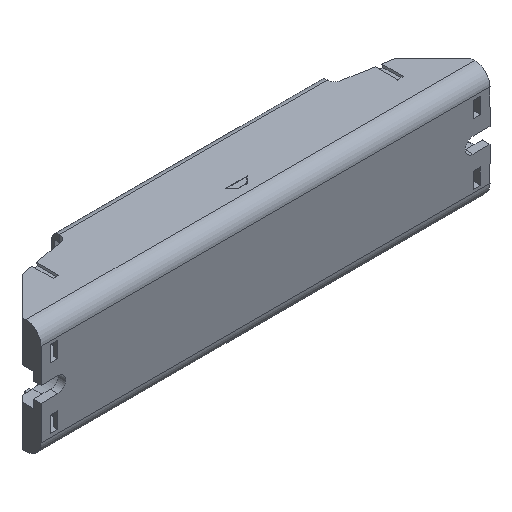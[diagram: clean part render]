
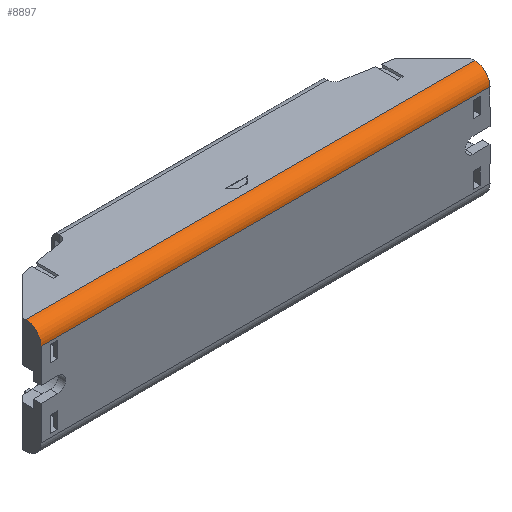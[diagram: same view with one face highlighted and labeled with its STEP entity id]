
A CAD part, isometric view. The second image highlights one B-rep face of the part: STEP entity #8897.
In plain terms, the highlighted cylindrical face has radius 4 mm (diameter 8 mm), a partial arc.
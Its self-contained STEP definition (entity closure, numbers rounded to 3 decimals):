
#96 = CYLINDRICAL_SURFACE ( 'NONE', #1895, 4. ) ;
#677 = ORIENTED_EDGE ( 'NONE', *, *, #11188, .F. ) ;
#1170 = EDGE_CURVE ( 'NONE', #2792, #3642, #11756, .T. ) ;
#1895 = AXIS2_PLACEMENT_3D ( 'NONE', #5152, #15230, #10316 ) ;
#2314 = CARTESIAN_POINT ( 'NONE',  ( -59., -5.006, 11. ) ) ;
#2406 = CIRCLE ( 'NONE', #9977, 4. ) ;
#2484 = CARTESIAN_POINT ( 'NONE',  ( 59., -1.006, 15. ) ) ;
#2588 = DIRECTION ( 'NONE',  ( -1., 0., 0. ) ) ;
#2792 = VERTEX_POINT ( 'NONE', #5476 ) ;
#3534 = ORIENTED_EDGE ( 'NONE', *, *, #1170, .F. ) ;
#3642 = VERTEX_POINT ( 'NONE', #2484 ) ;
#3836 = DIRECTION ( 'NONE',  ( -1., 0., 0. ) ) ;
#4779 = AXIS2_PLACEMENT_3D ( 'NONE', #13895, #11273, #4928 ) ;
#4928 = DIRECTION ( 'NONE',  ( 0., 0., 1. ) ) ;
#4942 = LINE ( 'NONE', #12645, #14056 ) ;
#5123 = VERTEX_POINT ( 'NONE', #8525 ) ;
#5152 = CARTESIAN_POINT ( 'NONE',  ( 59., -1.006, 11. ) ) ;
#5476 = CARTESIAN_POINT ( 'NONE',  ( -59., -1.006, 15. ) ) ;
#6105 = VERTEX_POINT ( 'NONE', #2314 ) ;
#7948 = DIRECTION ( 'NONE',  ( 1., 0., 0. ) ) ;
#8220 = EDGE_CURVE ( 'NONE', #6105, #2792, #2406, .T. ) ;
#8359 = EDGE_LOOP ( 'NONE', ( #677, #3534, #12252, #14726 ) ) ;
#8525 = CARTESIAN_POINT ( 'NONE',  ( 59., -5.006, 11. ) ) ;
#8897 = ADVANCED_FACE ( 'NONE', ( #11671 ), #96, .T. ) ;
#9723 = EDGE_CURVE ( 'NONE', #5123, #6105, #4942, .T. ) ;
#9977 = AXIS2_PLACEMENT_3D ( 'NONE', #13253, #2588, #12998 ) ;
#10316 = DIRECTION ( 'NONE',  ( 0., -1., 0. ) ) ;
#11188 = EDGE_CURVE ( 'NONE', #3642, #5123, #12089, .T. ) ;
#11273 = DIRECTION ( 'NONE',  ( 1., 0., 0. ) ) ;
#11671 = FACE_OUTER_BOUND ( 'NONE', #8359, .T. ) ;
#11756 = LINE ( 'NONE', #15816, #15845 ) ;
#12089 = CIRCLE ( 'NONE', #4779, 4. ) ;
#12252 = ORIENTED_EDGE ( 'NONE', *, *, #8220, .F. ) ;
#12645 = CARTESIAN_POINT ( 'NONE',  ( 52., -5.006, 11. ) ) ;
#12998 = DIRECTION ( 'NONE',  ( 0., 0., 1. ) ) ;
#13253 = CARTESIAN_POINT ( 'NONE',  ( -59., -1.006, 11. ) ) ;
#13895 = CARTESIAN_POINT ( 'NONE',  ( 59., -1.006, 11. ) ) ;
#14056 = VECTOR ( 'NONE', #3836, 1000. ) ;
#14726 = ORIENTED_EDGE ( 'NONE', *, *, #9723, .F. ) ;
#15230 = DIRECTION ( 'NONE',  ( -1., 0., 0. ) ) ;
#15816 = CARTESIAN_POINT ( 'NONE',  ( -52., -1.006, 15. ) ) ;
#15845 = VECTOR ( 'NONE', #7948, 1000. ) ;
